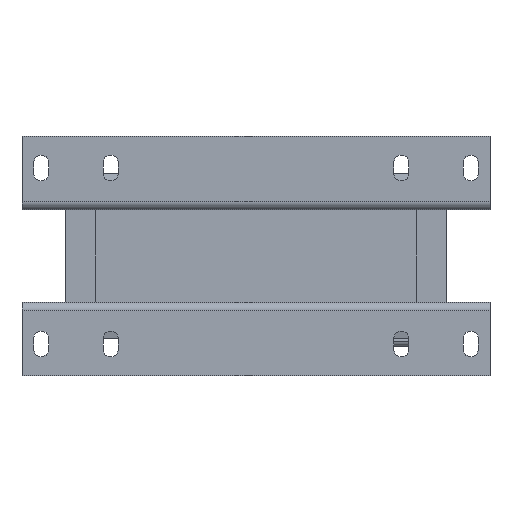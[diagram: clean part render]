
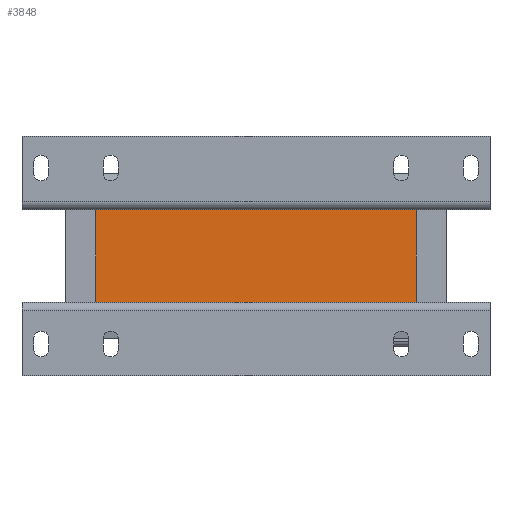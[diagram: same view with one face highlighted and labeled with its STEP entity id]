
A CAD part, front view. The second image highlights one B-rep face of the part: STEP entity #3848.
In plain terms, the highlighted planar face has unit normal (0, -1, 0).
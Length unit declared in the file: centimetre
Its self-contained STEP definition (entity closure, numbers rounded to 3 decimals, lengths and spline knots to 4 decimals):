
#236 = LINE ( 'NONE', #8451, #13957 ) ;
#875 = CARTESIAN_POINT ( 'NONE',  ( -7.5, 0.7, -2.165 ) ) ;
#882 = LINE ( 'NONE', #2720, #13958 ) ;
#1436 = FACE_OUTER_BOUND ( 'NONE', #3670, .T. ) ;
#1466 = VERTEX_POINT ( 'NONE', #7151 ) ;
#2570 = LINE ( 'NONE', #5311, #13890 ) ;
#2720 = CARTESIAN_POINT ( 'NONE',  ( 7.5, 0.7, 2.165 ) ) ;
#2958 = CARTESIAN_POINT ( 'NONE',  ( -7.5, 0.7, 2.165 ) ) ;
#3317 = VERTEX_POINT ( 'NONE', #875 ) ;
#3670 = EDGE_LOOP ( 'NONE', ( #5013, #11410, #15500, #7397 ) ) ;
#3848 = ADVANCED_FACE ( 'NONE', ( #1436 ), #15007, .F. ) ;
#4379 = CARTESIAN_POINT ( 'NONE',  ( 7.5, 0.7, -2.165 ) ) ;
#4586 = CARTESIAN_POINT ( 'NONE',  ( -7.5, 0.7, 2.165 ) ) ;
#5013 = ORIENTED_EDGE ( 'NONE', *, *, #9248, .T. ) ;
#5311 = CARTESIAN_POINT ( 'NONE',  ( -7.5, 0.7, 2.165 ) ) ;
#5361 = DIRECTION ( 'NONE',  ( 0., 0., -1. ) ) ;
#6835 = DIRECTION ( 'NONE',  ( 0., 1., 0. ) ) ;
#7151 = CARTESIAN_POINT ( 'NONE',  ( 7.5, 0.7, 2.165 ) ) ;
#7397 = ORIENTED_EDGE ( 'NONE', *, *, #11821, .T. ) ;
#7843 = EDGE_CURVE ( 'NONE', #13573, #1466, #2570, .T. ) ;
#8096 = LINE ( 'NONE', #14956, #15863 ) ;
#8178 = DIRECTION ( 'NONE',  ( 0., 0., -1. ) ) ;
#8451 = CARTESIAN_POINT ( 'NONE',  ( -7.5, 0.7, -2.165 ) ) ;
#9248 = EDGE_CURVE ( 'NONE', #3317, #15993, #236, .T. ) ;
#9684 = DIRECTION ( 'NONE',  ( 0., 0., 1. ) ) ;
#10712 = DIRECTION ( 'NONE',  ( 1., 0., 0. ) ) ;
#11410 = ORIENTED_EDGE ( 'NONE', *, *, #16984, .F. ) ;
#11821 = EDGE_CURVE ( 'NONE', #13573, #3317, #8096, .T. ) ;
#13573 = VERTEX_POINT ( 'NONE', #4586 ) ;
#13890 = VECTOR ( 'NONE', #10712, 100. ) ;
#13902 = DIRECTION ( 'NONE',  ( 1., 0., 0. ) ) ;
#13957 = VECTOR ( 'NONE', #13902, 100. ) ;
#13958 = VECTOR ( 'NONE', #5361, 100. ) ;
#14956 = CARTESIAN_POINT ( 'NONE',  ( -7.5, 0.7, 2.165 ) ) ;
#15007 = PLANE ( 'NONE',  #15262 ) ;
#15262 = AXIS2_PLACEMENT_3D ( 'NONE', #2958, #6835, #9684 ) ;
#15500 = ORIENTED_EDGE ( 'NONE', *, *, #7843, .F. ) ;
#15863 = VECTOR ( 'NONE', #8178, 100. ) ;
#15993 = VERTEX_POINT ( 'NONE', #4379 ) ;
#16984 = EDGE_CURVE ( 'NONE', #1466, #15993, #882, .T. ) ;
